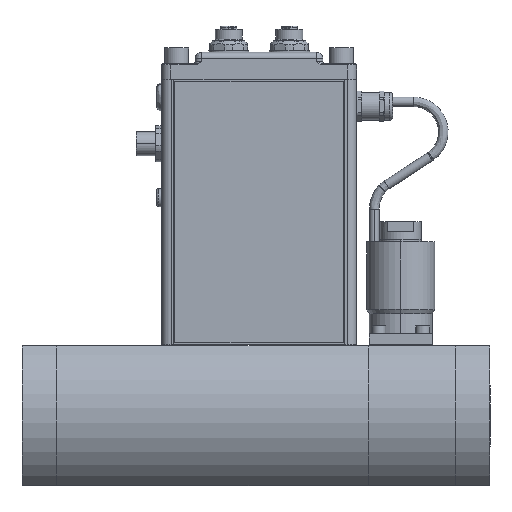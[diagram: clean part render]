
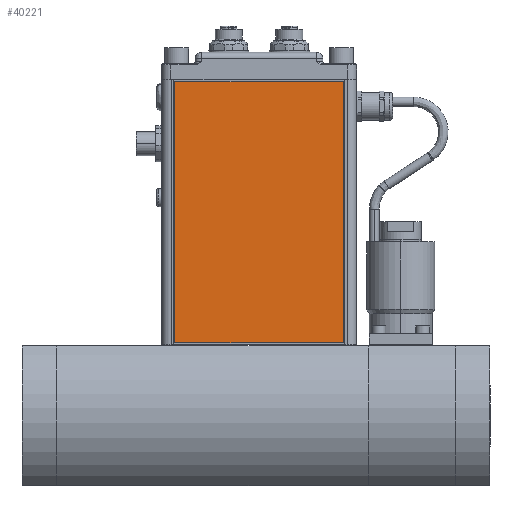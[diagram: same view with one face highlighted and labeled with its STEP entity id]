
A CAD part, top view. The second image highlights one B-rep face of the part: STEP entity #40221.
In plain terms, the highlighted planar face has unit normal (0, 0, 1).
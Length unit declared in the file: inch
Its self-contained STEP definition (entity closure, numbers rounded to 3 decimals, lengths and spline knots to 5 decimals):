
#2408 = CARTESIAN_POINT ( 'NONE',  ( -6.23891, 2.83272, 0.963 ) ) ;
#5464 = VECTOR ( 'NONE', #36745, 39.37008 ) ;
#5596 = CARTESIAN_POINT ( 'NONE',  ( -2.90891, 2.83272, 0.963 ) ) ;
#7234 = VERTEX_POINT ( 'NONE', #29748 ) ;
#7741 = ORIENTED_EDGE ( 'NONE', *, *, #35393, .T. ) ;
#8400 = EDGE_LOOP ( 'NONE', ( #19397, #7741, #20347, #37166 ) ) ;
#8875 = VERTEX_POINT ( 'NONE', #18521 ) ;
#10997 = EDGE_CURVE ( 'NONE', #7234, #31842, #11686, .T. ) ;
#11668 = DIRECTION ( 'NONE',  ( 0., 0., 1. ) ) ;
#11686 = LINE ( 'NONE', #23029, #5464 ) ;
#13586 = DIRECTION ( 'NONE',  ( 0., 1., 0. ) ) ;
#15780 = CARTESIAN_POINT ( 'NONE',  ( -2.90891, 2.83272, 0.963 ) ) ;
#18521 = CARTESIAN_POINT ( 'NONE',  ( -2.90891, 8.00272, 0.963 ) ) ;
#18902 = DIRECTION ( 'NONE',  ( -1., 0., 0. ) ) ;
#19397 = ORIENTED_EDGE ( 'NONE', *, *, #10997, .T. ) ;
#20347 = ORIENTED_EDGE ( 'NONE', *, *, #22156, .T. ) ;
#22156 = EDGE_CURVE ( 'NONE', #27694, #8875, #45971, .T. ) ;
#22188 = LINE ( 'NONE', #26448, #38562 ) ;
#22899 = DIRECTION ( 'NONE',  ( 1., 0., 0. ) ) ;
#23029 = CARTESIAN_POINT ( 'NONE',  ( -6.23891, 2.83272, 0.963 ) ) ;
#23054 = AXIS2_PLACEMENT_3D ( 'NONE', #43159, #11668, #42705 ) ;
#26448 = CARTESIAN_POINT ( 'NONE',  ( -4.57391, 2.83272, 0.963 ) ) ;
#27286 = EDGE_CURVE ( 'NONE', #8875, #7234, #33079, .T. ) ;
#27694 = VERTEX_POINT ( 'NONE', #15780 ) ;
#28729 = PLANE ( 'NONE',  #23054 ) ;
#29748 = CARTESIAN_POINT ( 'NONE',  ( -6.23891, 8.00272, 0.963 ) ) ;
#31369 = VECTOR ( 'NONE', #13586, 39.37008 ) ;
#31842 = VERTEX_POINT ( 'NONE', #2408 ) ;
#33079 = LINE ( 'NONE', #40901, #40828 ) ;
#35393 = EDGE_CURVE ( 'NONE', #31842, #27694, #22188, .T. ) ;
#36745 = DIRECTION ( 'NONE',  ( 0., -1., 0. ) ) ;
#37166 = ORIENTED_EDGE ( 'NONE', *, *, #27286, .T. ) ;
#38562 = VECTOR ( 'NONE', #22899, 39.37008 ) ;
#39154 = FACE_OUTER_BOUND ( 'NONE', #8400, .T. ) ;
#40221 = ADVANCED_FACE ( 'NONE', ( #39154 ), #28729, .T. ) ;
#40828 = VECTOR ( 'NONE', #18902, 39.37008 ) ;
#40901 = CARTESIAN_POINT ( 'NONE',  ( -4.57391, 8.00272, 0.963 ) ) ;
#42705 = DIRECTION ( 'NONE',  ( 0., -1., 0. ) ) ;
#43159 = CARTESIAN_POINT ( 'NONE',  ( -4.57391, 2.83272, 0.963 ) ) ;
#45971 = LINE ( 'NONE', #5596, #31369 ) ;
